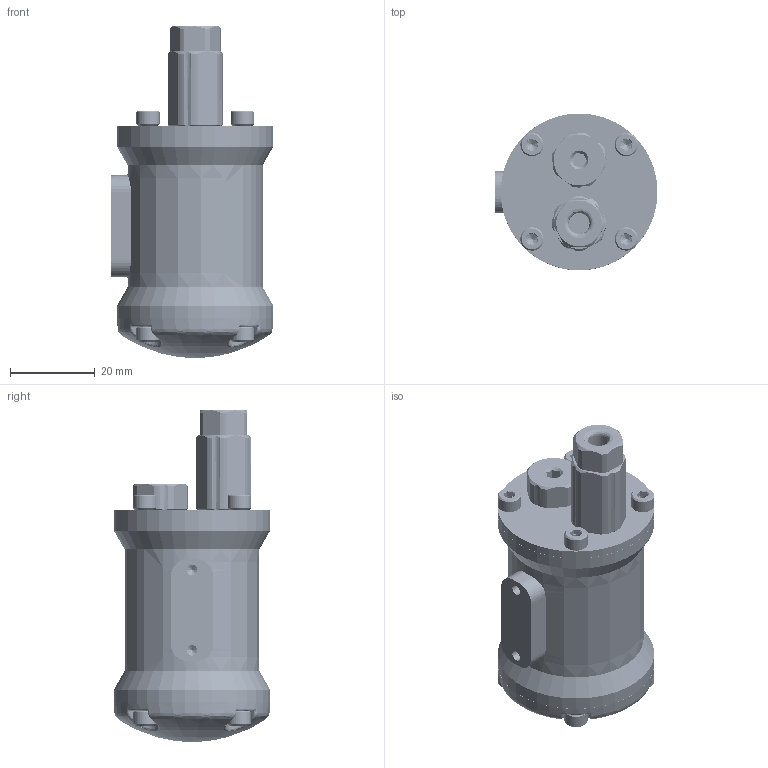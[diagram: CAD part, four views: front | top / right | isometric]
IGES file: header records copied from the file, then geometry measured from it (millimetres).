
Start section: SolidWorks IGES file using analytic representation for surfaces
Global section: file name: C:\Users\Brian\Dropbox\BR-Engineering\PROJECTS\LUMEN\MODELS\RELEASES\PUBLIC\LUMEN-R3\LUMEN-ASM-R3-PUBLIC.IGS; native system: SolidWorks 2020; preprocessor: SolidWorks 2020; author: Brian; date: 211013.173814; units: millimetre
Bounding box: 38.48 x 37 x 78.39 mm (x, y, z)
Surface area: 24627.7 mm2 (no closed solid volume)
Topology: 0 solids, 0 shells, 1190 faces, 18185 edges, 18133 vertices
Faces by surface type: revolution 813, bspline 377
